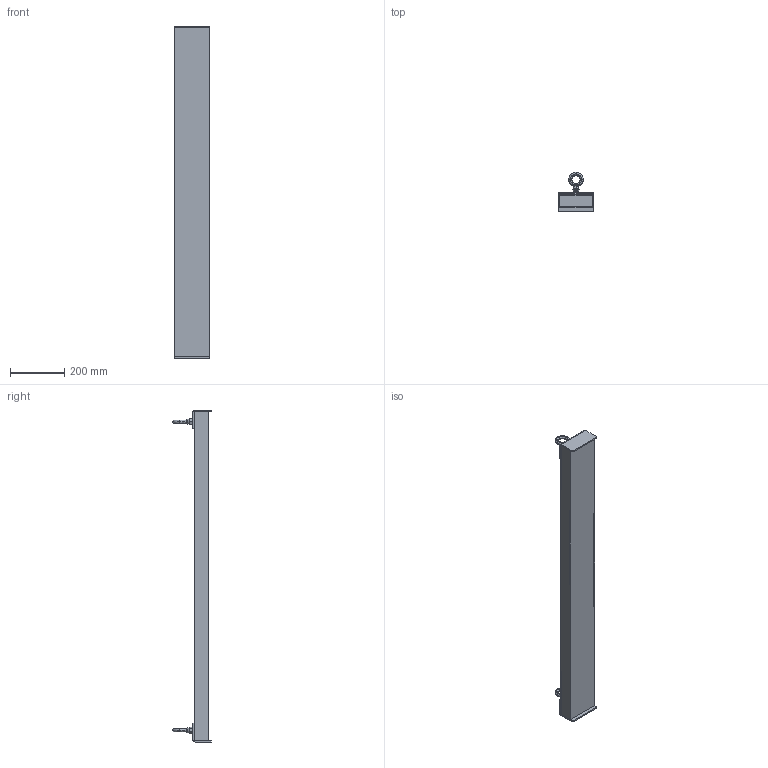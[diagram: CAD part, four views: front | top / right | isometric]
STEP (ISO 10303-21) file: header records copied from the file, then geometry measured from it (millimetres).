
FILE_DESCRIPTION (( 'STEP AP203' ), '1' );
FILE_NAME ('YS4800.STEP', '2018-08-20T19:42:34', ( '' ), ( '' ), 'SwSTEP 2.0', 'SolidWorks 2015', '' );
FILE_SCHEMA (( 'CONFIG_CONTROL_DESIGN' ));
Products named in the file (1): YS4800
Bounding box: 127 x 143.15 x 1219.23 mm (x, y, z)
Volume: 1522128.1 mm3; surface area: 948946.1 mm2
Topology: 11 solids, 11 shells, 2843 faces, 7351 edges, 4778 vertices
Faces by surface type: plane 1536, bspline 808, cylinder 255, cone 244
Entity records: 138676 total; most frequent: CARTESIAN_POINT 74993, ORIENTED_EDGE 14694, DIRECTION 10045, EDGE_CURVE 7347, VECTOR 4985, LINE 4985, VERTEX_POINT 4778, EDGE_LOOP 3113
